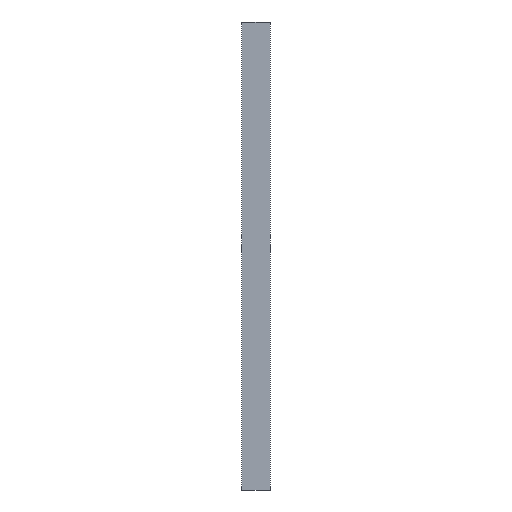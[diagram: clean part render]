
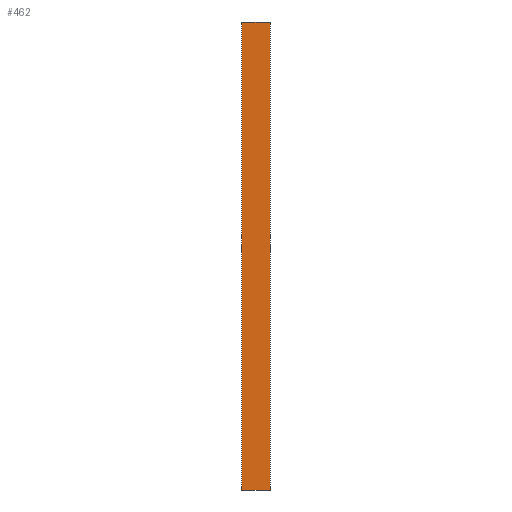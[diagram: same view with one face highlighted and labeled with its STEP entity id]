
A CAD part, front view. The second image highlights one B-rep face of the part: STEP entity #462.
In plain terms, the highlighted planar face has unit normal (0, -1, 0).
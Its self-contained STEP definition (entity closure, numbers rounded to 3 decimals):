
#11 = VECTOR ( 'NONE', #1253, 1000. ) ;
#24 = CARTESIAN_POINT ( 'NONE',  ( 20., -10., 330. ) ) ;
#29 = CARTESIAN_POINT ( 'NONE',  ( -20., -10., -330. ) ) ;
#31 = ORIENTED_EDGE ( 'NONE', *, *, #1465, .F. ) ;
#38 = ORIENTED_EDGE ( 'NONE', *, *, #786, .F. ) ;
#176 = LINE ( 'NONE', #416, #1309 ) ;
#210 = CARTESIAN_POINT ( 'NONE',  ( 20., -10., 330. ) ) ;
#230 = DIRECTION ( 'NONE',  ( 0., 0., -1. ) ) ;
#279 = LINE ( 'NONE', #816, #11 ) ;
#283 = EDGE_CURVE ( 'NONE', #1102, #360, #279, .T. ) ;
#359 = LINE ( 'NONE', #210, #943 ) ;
#360 = VERTEX_POINT ( 'NONE', #718 ) ;
#373 = CARTESIAN_POINT ( 'NONE',  ( 20., -10., 330. ) ) ;
#416 = CARTESIAN_POINT ( 'NONE',  ( -20., -10., 330. ) ) ;
#423 = PLANE ( 'NONE',  #853 ) ;
#462 = ADVANCED_FACE ( 'NONE', ( #1462 ), #423, .F. ) ;
#504 = ORIENTED_EDGE ( 'NONE', *, *, #283, .T. ) ;
#516 = VERTEX_POINT ( 'NONE', #1344 ) ;
#718 = CARTESIAN_POINT ( 'NONE',  ( 20., -10., -330. ) ) ;
#747 = DIRECTION ( 'NONE',  ( 1., 0., 0. ) ) ;
#756 = CARTESIAN_POINT ( 'NONE',  ( 20., -10., 330. ) ) ;
#786 = EDGE_CURVE ( 'NONE', #1612, #360, #359, .T. ) ;
#790 = DIRECTION ( 'NONE',  ( 0., 0., 1. ) ) ;
#816 = CARTESIAN_POINT ( 'NONE',  ( 20., -10., -330. ) ) ;
#840 = EDGE_LOOP ( 'NONE', ( #504, #38, #31, #1450 ) ) ;
#853 = AXIS2_PLACEMENT_3D ( 'NONE', #24, #1189, #790 ) ;
#943 = VECTOR ( 'NONE', #230, 1000. ) ;
#1055 = VECTOR ( 'NONE', #747, 1000. ) ;
#1102 = VERTEX_POINT ( 'NONE', #29 ) ;
#1189 = DIRECTION ( 'NONE',  ( 0., 1., 0. ) ) ;
#1253 = DIRECTION ( 'NONE',  ( 1., 0., 0. ) ) ;
#1309 = VECTOR ( 'NONE', #1500, 1000. ) ;
#1344 = CARTESIAN_POINT ( 'NONE',  ( -20., -10., 330. ) ) ;
#1450 = ORIENTED_EDGE ( 'NONE', *, *, #1711, .T. ) ;
#1462 = FACE_OUTER_BOUND ( 'NONE', #840, .T. ) ;
#1465 = EDGE_CURVE ( 'NONE', #516, #1612, #1658, .T. ) ;
#1500 = DIRECTION ( 'NONE',  ( 0., 0., -1. ) ) ;
#1612 = VERTEX_POINT ( 'NONE', #373 ) ;
#1658 = LINE ( 'NONE', #756, #1055 ) ;
#1711 = EDGE_CURVE ( 'NONE', #516, #1102, #176, .T. ) ;
